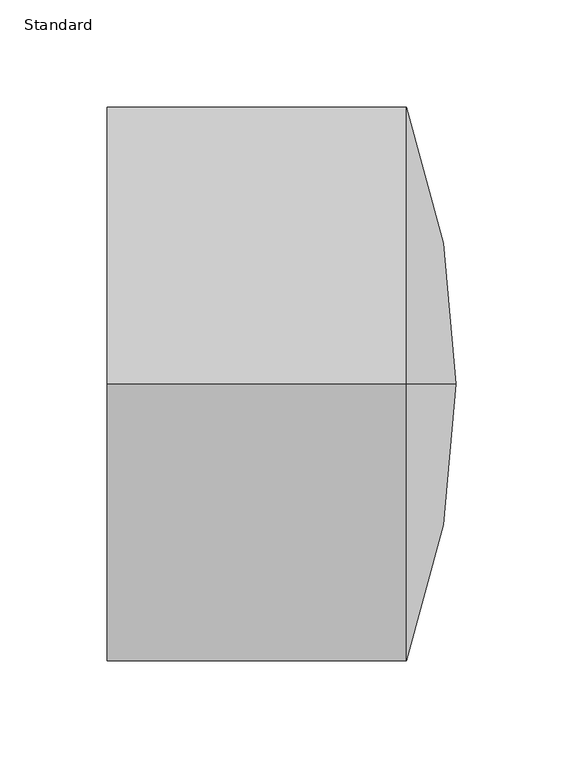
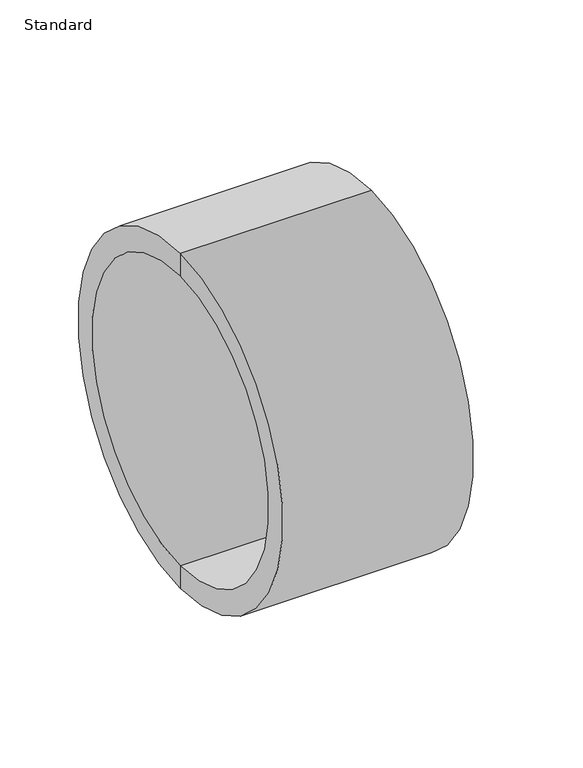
"""IFC4 building model written with IfcOpenShell, lengths in millimetres: pipe fitting geometry, Durapipe_PipeFitting_PVC_Cap : Standard."""

from ifc_helpers import new_model, si_unit, point, frame, origin, place, context, project, spatial, polyline, circle_curve, ellipse_curve, trimmed, source, transform, mapped, element, save
from ifc_brep_helpers import plane_surface, cylinder_surface, revolved_surface, advanced_brep


def standard_bd03fc34(model_context):
    return source(origin(), model_context, "Body", "AdvancedBrep", [
        advanced_brep(
        [(0.0, 0.0, 0.0), (0.0, 0.0, 112.5), (0.0, 0.0, -112.5), (21.0, 0.0, -130.0), (21.0, 0.0, 130.0), (44.0, 0.0, 0.0), (-119.0, 0.0, -130.0), (-119.0, 0.0, 130.0), (-119.0, 0.0, -112.5), (-119.0, 0.0, 112.5)],
        [
            (0, 1),
            (1, 2, circle_curve(frame((0.0, 0.0, 0.0), z_axis=(-1.0, 0.0, 0.0), x_axis=(0.0, 0.0, 1.0)), 112.5)),
            (2, 0),
            (2, 1, circle_curve(frame((0.0, 0.0, 0.0), z_axis=(-1.0, 0.0, 0.0), x_axis=(0.0, 0.0, 1.0)), 112.5)),
            (3, 4, circle_curve(frame((21.0, 0.0, 0.0), z_axis=(1.0, 0.0, 0.0), x_axis=(0.0, 0.0, 1.0)), 130.0)),
            (4, 5, circle_curve(frame((-328.5358483, 0.0, 1.1244268), z_axis=(0.0, 1.0, 0.0), x_axis=(1.0, 0.0, 0.0)), 372.5375452)),
            (5, 3, circle_curve(frame((-328.5358483, 0.0, -1.1244268), z_axis=(0.0, 1.0, 0.0), x_axis=(1.0, 0.0, 0.0)), 372.5375452)),
            (4, 3, circle_curve(frame((21.0, 0.0, 0.0), z_axis=(1.0, 0.0, 0.0), x_axis=(0.0, 0.0, 1.0)), 130.0)),
            (6, 7, circle_curve(frame((-119.0, 0.0, 0.0), z_axis=(1.0, 0.0, 0.0), x_axis=(0.0, 0.0, 1.0)), 130.0)),
            (7, 4),
            (3, 6),
            (7, 6, circle_curve(frame((-119.0, 0.0, 0.0), z_axis=(1.0, 0.0, 0.0), x_axis=(0.0, 0.0, 1.0)), 130.0)),
            (8, 9, circle_curve(frame((-119.0, 0.0, 0.0), z_axis=(1.0, 0.0, 0.0), x_axis=(0.0, 0.0, 1.0)), 112.5)),
            (9, 7),
            (6, 8),
            (9, 8, circle_curve(frame((-119.0, 0.0, 0.0), z_axis=(1.0, 0.0, 0.0), x_axis=(0.0, 0.0, 1.0)), 112.5)),
            (1, 9),
            (8, 2),
        ],
        [
            plane_surface(frame((0.0, 0.0, 0.0), z_axis=(-1.0, 0.0, 0.0), x_axis=(0.0, 0.0, 1.0))),
            revolved_surface(trimmed(ellipse_curve(frame((-328.5358483, 0.0, 1.1244268), z_axis=(0.0, -1.0, 0.0), x_axis=(1.0, 0.0, 0.0)), 372.5375452, 372.5375452), [point((44.0, 0.0, 0.0))], [point((21.0, 0.0, 130.0))], True, "CARTESIAN"), (-1618.1299635, 0.0, 0.0), (-1.0, 0.0, 0.0)),
            cylinder_surface(frame((-1618.1299635, 0.0, 0.0), z_axis=(-1.0, 0.0, 0.0), x_axis=(0.0, 0.0, 1.0)), 130.0),
            plane_surface(frame((-119.0, 0.0, 0.0), z_axis=(-1.0, 0.0, 0.0), x_axis=(0.0, 0.0, 1.0))),
            revolved_surface(polyline([(-119.0, 0.0, 112.5), (0.0, 0.0, 112.5)]), (-1618.1299635, 0.0, 0.0), (-1.0, 0.0, 0.0)),
        ],
        [
            (0, [[1, 2, 3]]),
            (0, [[-3, 4, -1]]),
            (1, [[5, 6, 7]]),
            (1, [[8, -7, -6]]),
            (2, [[9, 10, -5, 11]]),
            (2, [[12, -11, -8, -10]]),
            (3, [[13, 14, -9, 15]]),
            (3, [[16, -15, -12, -14]]),
            (4, [[-2, 17, -13, 18]]),
            (4, [[-4, -18, -16, -17]]),
        ],
    ),
    ])


if __name__ == "__main__":
    model = new_model("IFC4")
    model_context = context("Model", 3, world=origin())
    ifc_project = project(units=[si_unit("LENGTHUNIT", "METRE", prefix="MILLI")], contexts=[model_context])
    site = spatial("IfcSite", under=ifc_project)
    building = spatial("IfcBuilding", under=site)
    placement = place(None, origin())
    standard_shape = standard_bd03fc34(model_context)
    element("IfcPipeFitting", 1, ObjectType="Durapipe_PipeFitting_PVC_Cap : Standard", at=placement, inside=building, context=model_context, shape_type="MappedRepresentation", body=[
        mapped(standard_shape, transform((0.0, 0.0, 0.0), x_axis=(1.0, 0.0, 0.0), y_axis=(0.0, 1.0, 0.0), z_axis=(0.0, 0.0, 1.0))),
    ])
    save(model, "model.ifc")
